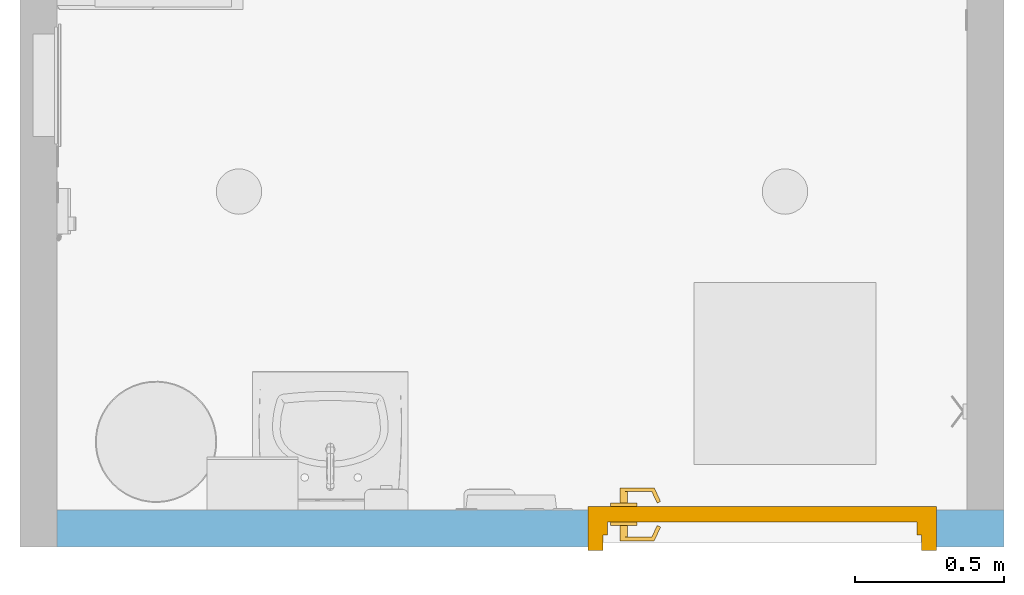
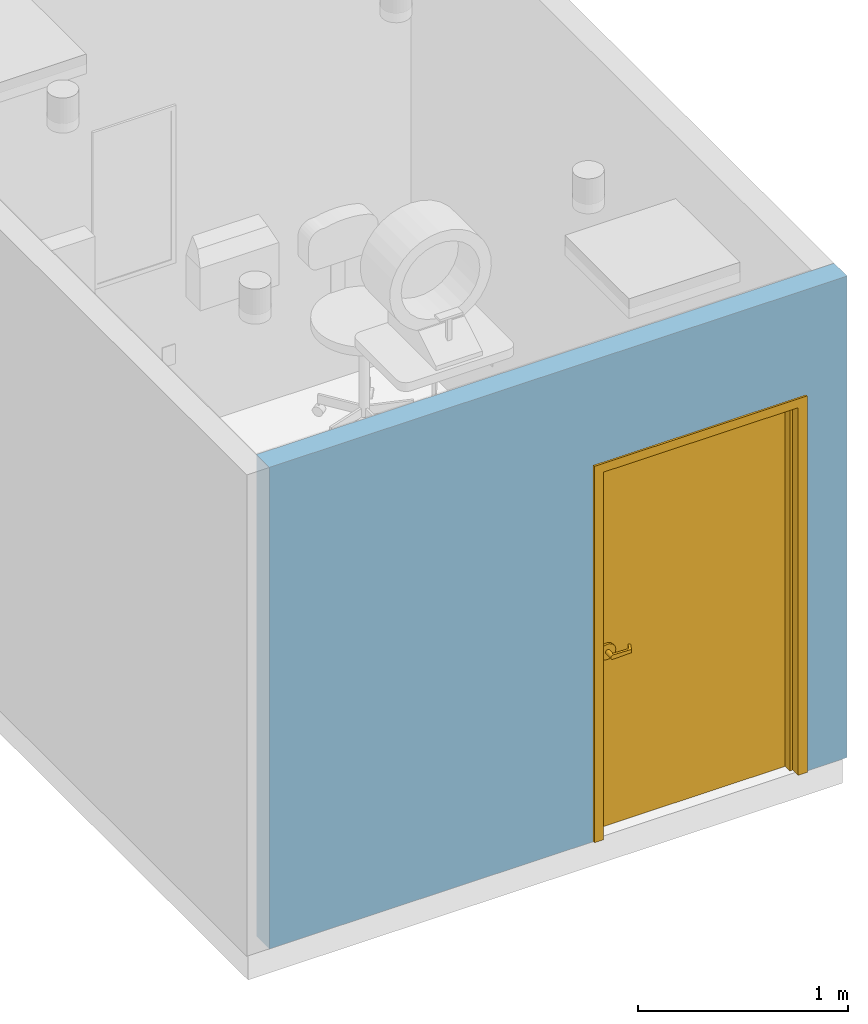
# One storey, part 2 of 11: 1 door, 1 opening, plus 1 element that does not belong to this part.
"""IFC2X3 building model written with IfcOpenShell, lengths in feet."""

from ifc_helpers import new_model, entity, si_unit, converted_unit, derived_unit, direction, frame, frame_2d, origin, place, context, subcontext, project, spatial, rectangle, extrude, faceted_brep, source, transform, mapped, material, material_list, layer, layer_set, layer_usage, type_object, type_shapes, element, fill, save


model = new_model("IFC2X3")

# Units and contexts
model_context = context("Model", 3, precision=0.0001, world=origin(), true_north=direction((6.12303176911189e-17, 1.0)))
body_context = subcontext(model_context, "Body", "Model", "MODEL_VIEW")
ifc_project = project(units=[converted_unit("LENGTHUNIT", "FOOT", entity("IfcRatioMeasure", 0.3048), si_unit("LENGTHUNIT", "METRE"), dimensions=[1, 0, 0, 0, 0, 0, 0]), converted_unit("AREAUNIT", "SQUARE FOOT", entity("IfcRatioMeasure", 0.09290304), si_unit("AREAUNIT", "SQUARE_METRE"), dimensions=[2, 0, 0, 0, 0, 0, 0]), converted_unit("VOLUMEUNIT", "CUBIC FOOT", entity("IfcRatioMeasure", 0.028316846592), si_unit("VOLUMEUNIT", "CUBIC_METRE"), dimensions=[3, 0, 0, 0, 0, 0, 0]), converted_unit("PLANEANGLEUNIT", "DEGREE", entity("IfcRatioMeasure", 0.0174532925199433), si_unit("PLANEANGLEUNIT", "RADIAN"), dimensions=[0, 0, 0, 0, 0, 0, 0]), si_unit("MASSUNIT", "GRAM", prefix="KILO"), derived_unit("MASSDENSITYUNIT", [(si_unit("MASSUNIT", "GRAM", prefix="KILO"), 1), (si_unit("LENGTHUNIT", "METRE"), -3)]), si_unit("TIMEUNIT", "SECOND"), si_unit("FREQUENCYUNIT", "HERTZ"), si_unit("THERMODYNAMICTEMPERATUREUNIT", "DEGREE_CELSIUS"), derived_unit("THERMALTRANSMITTANCEUNIT", [(si_unit("MASSUNIT", "GRAM", prefix="KILO"), 1), (si_unit("THERMODYNAMICTEMPERATUREUNIT", "KELVIN"), -1), (si_unit("TIMEUNIT", "SECOND"), -3)]), derived_unit("VOLUMETRICFLOWRATEUNIT", [(si_unit("LENGTHUNIT", "METRE"), 3), (si_unit("TIMEUNIT", "SECOND"), -1)]), si_unit("ELECTRICCURRENTUNIT", "AMPERE"), si_unit("ELECTRICVOLTAGEUNIT", "VOLT"), si_unit("POWERUNIT", "WATT"), si_unit("FORCEUNIT", "NEWTON"), si_unit("ILLUMINANCEUNIT", "LUX"), si_unit("LUMINOUSFLUXUNIT", "LUMEN"), si_unit("LUMINOUSINTENSITYUNIT", "CANDELA"), derived_unit("USERDEFINED", [(si_unit("MASSUNIT", "GRAM", prefix="KILO"), -1), (si_unit("LENGTHUNIT", "METRE"), -2), (si_unit("TIMEUNIT", "SECOND"), 3), (si_unit("LUMINOUSFLUXUNIT", "LUMEN"), 1)]), derived_unit("LINEARVELOCITYUNIT", [(si_unit("LENGTHUNIT", "METRE"), 1), (si_unit("TIMEUNIT", "SECOND"), -1)]), si_unit("PRESSUREUNIT", "PASCAL"), derived_unit("USERDEFINED", [(si_unit("LENGTHUNIT", "METRE"), -2), (si_unit("MASSUNIT", "GRAM", prefix="KILO"), 1), (si_unit("TIMEUNIT", "SECOND"), -2)])], contexts=[model_context])

# Site, building, storey
site_placement = place(None, origin())
site = spatial("IfcSite", under=ifc_project, at=site_placement, Name="Default", CompositionType="ELEMENT")
building_placement = place(site_placement, origin())
building = spatial("IfcBuilding", under=site, at=building_placement, Name="EYE CLINIC:  OPTHALMOLOGY AND OPTOMETRY SERVICES (Ch. 233)", CompositionType="ELEMENT")
storey_placement = place(building_placement, origin())
storey = spatial("IfcBuildingStorey", under=building, at=storey_placement, Name="DATUM", CompositionType="ELEMENT", Elevation=0.0)

# Wall, opening, door
ifc_material_1 = material(Name="Default Wall")
ifc_layer = layer(ifc_material_1, 0.40625)
ifc_layer_set = layer_set([ifc_layer], Name="Basic Wall:Interior - 4 7/8\"")
ifc_layer_usage = layer_usage(ifc_layer_set, "AXIS2", "NEGATIVE", 0.203125)
wall_type = type_object("IfcWallType", Name="Basic Wall:Interior - 4 7/8\"", PredefinedType="STANDARD", material=ifc_layer_set)
wall_placement = place(storey_placement, frame((200.046019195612, 16.307625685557, 0.0), z_axis=(0.0, 0.0, 1.0), x_axis=(-1.0, 0.0, 0.0)))
wall = element("IfcWallStandardCase", 1, at=wall_placement, inside=storey, type_object=wall_type, material=ifc_layer_usage, Name="Basic Wall:Interior - 4 7/8\"", ObjectType="Basic Wall:Interior - 4 7/8\"", context=body_context, shape_type="SweptSolid", body=[
    extrude(rectangle(XDim=10.40625, YDim=0.40625, at=frame_2d((5.203125, 1.12410081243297e-15), x_axis=(-1.0, 0.0))), origin(), (0.0, 0.0, 1.0), 9.16666666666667),
])
opening_placement = place(wall_placement, frame((4.57291666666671, 0.203124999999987, 0.0)))
opening = element("IfcOpeningElement", 2, at=opening_placement, cuts=wall, Name="Single - Flush:42\" x 84\":1", ObjectType="Opening", context=body_context, shape_type="SweptSolid", body=[
    extrude(rectangle(XDim=3.83333333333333, YDim=7.16666666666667, at=frame_2d((3.58333333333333, 1.91666666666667), x_axis=(0.0, 1.0))), frame((0.0, 0.0, 0.0), z_axis=(0.0, -1.0, 0.0), x_axis=(0.0, 0.0, 1.0)), (0.0, 0.0, 1.0), 0.40625),
])
ifc_material_2 = material(Name="Door - Hardware")
ifc_material_3 = material(Name="Door - Wood Panel")
ifc_material_4 = material(Name="Door - H.M. Frame")
ifc_material_list_1 = material_list([ifc_material_2, ifc_material_3, ifc_material_4])
ifc_material_list_2 = material_list([ifc_material_2, ifc_material_3, ifc_material_4])
door_style = type_object("IfcDoorStyle", Name="42\" x 84\"", ConstructionType="NOTDEFINED", OperationType="NOTDEFINED", ParameterTakesPrecedence=False, Sizeable=False, material=ifc_material_list_2)
shared_shape = source(origin(), body_context, "Body", "Brep", [
    faceted_brep([(0.761840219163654, 0.236368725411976, 3.3541666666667), (0.761840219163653, 0.236368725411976, 3.31250000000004), (0.709012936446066, 0.123080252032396, 3.30208333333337), (0.702622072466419, 0.109375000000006, 3.30208333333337), (0.702622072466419, 0.109375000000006, 3.36458333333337), (0.709012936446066, 0.123080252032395, 3.36458333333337), (0.799603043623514, 0.218759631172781, 3.3541666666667), (0.746775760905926, 0.1054711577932, 3.36458333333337), (0.729166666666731, 0.0677083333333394, 3.36458333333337), (0.72916666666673, 0.0677083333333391, 3.30208333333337), (0.746775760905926, 0.1054711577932, 3.30208333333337), (0.799603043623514, 0.218759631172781, 3.31250000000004), (0.72916666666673, 0.109375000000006, 3.30208333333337), (0.729166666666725, 0.109375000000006, 3.36458333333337), (0.397137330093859, 0.0677083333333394, 3.29168707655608), (0.397137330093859, 0.0677083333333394, 3.37497959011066), (0.38693671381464, 0.0677083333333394, 3.37403912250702), (0.377273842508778, 0.0677083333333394, 3.37063824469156), (0.368732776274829, 0.0677083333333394, 3.36498251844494), (0.361829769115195, 0.0677083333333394, 3.35741379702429), (0.356982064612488, 0.0677083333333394, 3.34838956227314), (0.354482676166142, 0.0677083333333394, 3.33845527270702), (0.354482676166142, 0.0677083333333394, 3.32821139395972), (0.356982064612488, 0.0677083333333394, 3.31827710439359), (0.361829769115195, 0.0677083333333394, 3.30925286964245), (0.368732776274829, 0.0677083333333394, 3.3016841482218), (0.377273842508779, 0.0677083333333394, 3.29602842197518), (0.38693671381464, 0.0677083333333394, 3.29262754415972), (0.397137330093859, 0.109375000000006, 3.29168707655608), (0.407663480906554, 0.109375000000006, 3.29338137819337), (0.417415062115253, 0.109375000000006, 3.29769150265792), (0.425753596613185, 0.109375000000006, 3.30433524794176), (0.432133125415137, 0.109375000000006, 3.31287762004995), (0.436135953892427, 0.109375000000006, 3.32275931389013), (0.437500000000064, 0.109375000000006, 3.33333333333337), (0.436135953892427, 0.109375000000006, 3.34390735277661), (0.432133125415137, 0.109375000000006, 3.35378904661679), (0.425753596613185, 0.109375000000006, 3.36233141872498), (0.417415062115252, 0.109375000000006, 3.36897516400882), (0.407663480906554, 0.109375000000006, 3.37328528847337), (0.397137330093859, 0.109375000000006, 3.37497959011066), (0.387651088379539, 0.109375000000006, 3.29247795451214), (0.378594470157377, 0.109375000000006, 3.2954000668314), (0.363605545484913, 0.109375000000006, 3.30692347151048), (0.370437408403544, 0.109375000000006, 3.30030065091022), (0.358454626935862, 0.109375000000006, 3.31492291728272), (0.355252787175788, 0.109375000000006, 3.32388185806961), (0.35416666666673, 0.109375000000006, 3.33333333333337), (0.355252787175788, 0.109375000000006, 3.34278480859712), (0.358454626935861, 0.109375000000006, 3.35174374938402), (0.370437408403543, 0.109375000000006, 3.36636601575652), (0.363605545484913, 0.109375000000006, 3.35974319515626), (0.378594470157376, 0.109375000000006, 3.37126659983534), (0.387651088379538, 0.109375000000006, 3.3741887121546), (0.35416666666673, 0.234375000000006, 3.33333333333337), (0.355586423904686, 0.234375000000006, 3.34411746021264), (0.359748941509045, 0.234375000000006, 3.3541666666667), (0.375000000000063, 0.234375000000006, 3.36941772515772), (0.366370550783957, 0.234375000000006, 3.36279611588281), (0.385049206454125, 0.234375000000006, 3.37358024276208), (0.395833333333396, 0.234375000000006, 3.37500000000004), (0.406617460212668, 0.234375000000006, 3.37358024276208), (0.41666666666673, 0.234375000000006, 3.36941772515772), (0.431917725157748, 0.234375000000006, 3.3541666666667), (0.425296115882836, 0.234375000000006, 3.36279611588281), (0.436080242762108, 0.234375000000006, 3.34411746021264), (0.437500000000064, 0.234375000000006, 3.33333333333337), (0.436080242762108, 0.234375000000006, 3.3225492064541), (0.431917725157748, 0.234375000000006, 3.31250000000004), (0.41666666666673, 0.234375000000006, 3.29724894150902), (0.425296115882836, 0.234375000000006, 3.30387055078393), (0.406617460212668, 0.234375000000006, 3.29308642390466), (0.395833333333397, 0.234375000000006, 3.2916666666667), (0.385049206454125, 0.234375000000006, 3.29308642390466), (0.375000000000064, 0.234375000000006, 3.29724894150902), (0.359748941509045, 0.234375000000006, 3.31250000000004), (0.366370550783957, 0.234375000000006, 3.30387055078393), (0.355586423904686, 0.234375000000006, 3.3225492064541), (0.468750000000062, 0.234375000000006, 3.4596287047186), (0.498953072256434, 0.234375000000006, 3.43645307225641), (0.433577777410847, 0.234375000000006, 3.47419751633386), (0.395833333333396, 0.234375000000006, 3.4791666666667), (0.358088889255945, 0.234375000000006, 3.47419751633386), (0.322916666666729, 0.234375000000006, 3.4596287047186), (0.292713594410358, 0.234375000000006, 3.43645307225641), (0.269537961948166, 0.234375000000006, 3.40625000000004), (0.254969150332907, 0.234375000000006, 3.37107777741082), (0.250000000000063, 0.234375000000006, 3.33333333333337), (0.254969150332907, 0.234375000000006, 3.29558888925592), (0.269537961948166, 0.234375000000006, 3.2604166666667), (0.292713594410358, 0.234375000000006, 3.23021359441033), (0.32291666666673, 0.234375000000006, 3.20703796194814), (0.358088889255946, 0.234375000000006, 3.19246915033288), (0.395833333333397, 0.234375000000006, 3.18750000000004), (0.433577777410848, 0.234375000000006, 3.19246915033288), (0.468750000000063, 0.234375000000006, 3.20703796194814), (0.498953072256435, 0.234375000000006, 3.23021359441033), (0.522128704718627, 0.234375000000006, 3.2604166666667), (0.536697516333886, 0.234375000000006, 3.29558888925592), (0.54166666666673, 0.234375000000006, 3.33333333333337), (0.536697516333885, 0.234375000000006, 3.37107777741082), (0.522128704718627, 0.234375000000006, 3.40625000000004), (0.433577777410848, 0.276041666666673, 3.19246915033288), (0.395833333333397, 0.276041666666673, 3.18750000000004), (0.358088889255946, 0.276041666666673, 3.19246915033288), (0.32291666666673, 0.276041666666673, 3.20703796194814), (0.292713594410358, 0.276041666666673, 3.23021359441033), (0.269537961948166, 0.276041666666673, 3.2604166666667), (0.254969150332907, 0.276041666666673, 3.29558888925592), (0.250000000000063, 0.276041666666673, 3.33333333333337), (0.254969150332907, 0.276041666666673, 3.37107777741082), (0.269537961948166, 0.276041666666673, 3.40625000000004), (0.292713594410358, 0.276041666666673, 3.43645307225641), (0.322916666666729, 0.276041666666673, 3.4596287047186), (0.358088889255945, 0.276041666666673, 3.47419751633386), (0.395833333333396, 0.276041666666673, 3.4791666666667), (0.433577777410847, 0.276041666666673, 3.47419751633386), (0.468750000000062, 0.276041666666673, 3.4596287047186), (0.498953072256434, 0.276041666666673, 3.43645307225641), (0.522128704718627, 0.276041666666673, 3.40625000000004), (0.536697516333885, 0.276041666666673, 3.37107777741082), (0.54166666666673, 0.276041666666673, 3.33333333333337), (0.536697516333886, 0.276041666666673, 3.29558888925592), (0.522128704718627, 0.276041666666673, 3.2604166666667), (0.498953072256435, 0.276041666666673, 3.23021359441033), (0.468750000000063, 0.276041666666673, 3.20703796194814)], [[[0, 1, 2, 3, 4, 5]], [[6, 7, 8, 9, 10, 11]], [[12, 3, 2, 10, 9]], [[11, 10, 2, 1]], [[11, 1, 0, 6]], [[7, 6, 0, 5]], [[13, 8, 7, 5, 4]], [[14, 9, 8, 15, 16, 17, 18, 19, 20, 21, 22, 23, 24, 25, 26, 27]], [[3, 12, 28, 29, 30, 31, 32, 33, 34, 35, 36, 37, 38, 39, 40, 13, 4]], [[28, 12, 9, 14]], [[28, 14, 41]], [[41, 27, 42]], [[43, 44, 25]], [[24, 45, 43]], [[26, 44, 42]], [[45, 23, 46]], [[27, 26, 42]], [[41, 14, 27]], [[45, 24, 23]], [[24, 43, 25]], [[44, 26, 25]], [[46, 23, 22]], [[22, 47, 46]], [[47, 21, 48]], [[48, 20, 49]], [[50, 51, 18]], [[17, 52, 50]], [[19, 51, 49]], [[52, 16, 53]], [[51, 19, 18]], [[49, 20, 19]], [[48, 21, 20]], [[53, 16, 15]], [[16, 52, 17]], [[50, 18, 17]], [[40, 53, 15]], [[22, 21, 47]], [[40, 15, 8, 13]], [[54, 48, 55]], [[55, 49, 56]], [[57, 58, 50]], [[51, 58, 56]], [[59, 57, 52]], [[48, 49, 55]], [[54, 47, 48]], [[57, 50, 52]], [[50, 58, 51]], [[56, 49, 51]], [[59, 52, 53]], [[53, 60, 59]], [[60, 40, 61]], [[61, 39, 62]], [[63, 64, 37]], [[36, 65, 63]], [[38, 64, 62]], [[65, 35, 66]], [[39, 38, 62]], [[61, 40, 39]], [[65, 36, 35]], [[36, 63, 37]], [[64, 38, 37]], [[66, 35, 34]], [[53, 40, 60]], [[66, 33, 67]], [[67, 32, 68]], [[69, 70, 30]], [[31, 70, 68]], [[71, 69, 29]], [[33, 32, 67]], [[66, 34, 33]], [[69, 30, 29]], [[30, 70, 31]], [[68, 32, 31]], [[71, 29, 28]], [[28, 72, 71]], [[72, 41, 73]], [[73, 42, 74]], [[75, 76, 43]], [[45, 77, 75]], [[44, 76, 74]], [[77, 46, 54]], [[42, 44, 74]], [[73, 41, 42]], [[77, 45, 46]], [[45, 75, 43]], [[76, 44, 43]], [[54, 46, 47]], [[28, 41, 72]], [[78, 61, 62]], [[78, 62, 79]], [[78, 80, 61]], [[60, 61, 80]], [[81, 60, 80]], [[60, 81, 59]], [[82, 59, 81]], [[82, 57, 59]], [[57, 82, 83]], [[57, 83, 58]], [[84, 58, 83]], [[58, 84, 56]], [[56, 84, 85]], [[56, 85, 55]], [[55, 85, 86]], [[54, 55, 86]], [[87, 54, 86]], [[77, 54, 87]], [[88, 77, 87]], [[75, 77, 88]], [[89, 75, 88]], [[75, 89, 90]], [[76, 75, 90]], [[90, 91, 76]], [[91, 74, 76]], [[74, 91, 92]], [[74, 92, 73]], [[92, 93, 73]], [[72, 73, 93]], [[93, 94, 72]], [[72, 94, 71]], [[95, 71, 94]], [[71, 95, 69]], [[69, 95, 96]], [[70, 69, 96]], [[97, 70, 96]], [[68, 70, 97]], [[98, 68, 97]], [[68, 98, 67]], [[67, 98, 99]], [[99, 66, 67]], [[99, 100, 66]], [[65, 66, 100]], [[101, 65, 100]], [[64, 101, 79]], [[101, 63, 65]], [[63, 101, 64]], [[64, 79, 62]], [[102, 103, 104, 105, 106, 107, 108, 109, 110, 111, 112, 113, 114, 115, 116, 117, 118, 119, 120, 121, 122, 123, 124, 125]], [[109, 87, 86, 110]], [[110, 86, 85, 111]], [[113, 112, 84, 83]], [[84, 112, 111, 85]], [[114, 113, 83, 82]], [[114, 82, 81, 115]], [[115, 81, 80, 116]], [[116, 80, 78, 117]], [[119, 118, 79, 101]], [[79, 118, 117, 78]], [[120, 119, 101, 100]], [[120, 100, 99, 121]], [[121, 99, 98, 122]], [[122, 98, 97, 123]], [[125, 124, 96, 95]], [[96, 124, 123, 97]], [[102, 125, 95, 94]], [[102, 94, 93, 103]], [[103, 93, 92, 104]], [[104, 92, 91, 105]], [[107, 106, 90, 89]], [[90, 106, 105, 91]], [[108, 107, 89, 88]], [[108, 88, 87, 109]]]),
    faceted_brep([(0.761840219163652, 0.482381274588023, 3.31249999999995), (0.761840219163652, 0.482381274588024, 3.35416666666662), (0.709012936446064, 0.595669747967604, 3.36458333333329), (0.702622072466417, 0.609374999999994, 3.36458333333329), (0.702622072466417, 0.609374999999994, 3.30208333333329), (0.709012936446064, 0.595669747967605, 3.30208333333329), (0.799603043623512, 0.499990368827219, 3.31249999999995), (0.746775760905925, 0.6132788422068, 3.30208333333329), (0.729166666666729, 0.651041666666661, 3.30208333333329), (0.729166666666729, 0.651041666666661, 3.36458333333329), (0.746775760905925, 0.6132788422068, 3.36458333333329), (0.799603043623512, 0.499990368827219, 3.35416666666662), (0.729166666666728, 0.609374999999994, 3.36458333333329), (0.729166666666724, 0.609374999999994, 3.30208333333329), (0.397137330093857, 0.651041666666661, 3.37497959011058), (0.397137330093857, 0.651041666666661, 3.291687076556), (0.386936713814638, 0.651041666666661, 3.29262754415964), (0.377273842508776, 0.651041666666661, 3.2960284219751), (0.368732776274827, 0.651041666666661, 3.30168414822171), (0.361829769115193, 0.651041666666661, 3.30925286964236), (0.356982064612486, 0.651041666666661, 3.31827710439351), (0.35448267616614, 0.651041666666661, 3.32821139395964), (0.35448267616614, 0.651041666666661, 3.33845527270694), (0.356982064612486, 0.651041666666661, 3.34838956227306), (0.361829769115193, 0.651041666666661, 3.35741379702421), (0.368732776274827, 0.651041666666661, 3.36498251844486), (0.377273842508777, 0.651041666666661, 3.37063824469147), (0.386936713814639, 0.651041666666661, 3.37403912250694), (0.397137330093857, 0.609374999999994, 3.37497959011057), (0.407663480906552, 0.609374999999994, 3.37328528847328), (0.417415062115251, 0.609374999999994, 3.36897516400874), (0.425753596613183, 0.609374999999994, 3.3623314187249), (0.432133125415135, 0.609374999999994, 3.35378904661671), (0.436135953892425, 0.609374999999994, 3.34390735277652), (0.437500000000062, 0.609374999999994, 3.33333333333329), (0.436135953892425, 0.609374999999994, 3.32275931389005), (0.432133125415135, 0.609374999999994, 3.31287762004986), (0.425753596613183, 0.609374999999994, 3.30433524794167), (0.417415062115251, 0.609374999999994, 3.29769150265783), (0.407663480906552, 0.609374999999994, 3.29338137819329), (0.397137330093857, 0.609374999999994, 3.291687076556), (0.387651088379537, 0.609374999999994, 3.37418871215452), (0.378594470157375, 0.609374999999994, 3.37126659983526), (0.363605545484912, 0.609374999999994, 3.35974319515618), (0.370437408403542, 0.609374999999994, 3.36636601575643), (0.35845462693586, 0.609374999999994, 3.35174374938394), (0.355252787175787, 0.609374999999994, 3.34278480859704), (0.354166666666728, 0.609374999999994, 3.33333333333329), (0.355252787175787, 0.609374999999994, 3.32388185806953), (0.35845462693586, 0.609374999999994, 3.31492291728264), (0.370437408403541, 0.609374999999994, 3.30030065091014), (0.363605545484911, 0.609374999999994, 3.30692347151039), (0.378594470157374, 0.609374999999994, 3.29540006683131), (0.387651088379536, 0.609374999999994, 3.29247795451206), (0.354166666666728, 0.484374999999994, 3.33333333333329), (0.355586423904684, 0.484374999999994, 3.32254920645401), (0.359748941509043, 0.484374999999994, 3.31249999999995), (0.375000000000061, 0.484374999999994, 3.29724894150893), (0.366370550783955, 0.484374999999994, 3.30387055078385), (0.385049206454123, 0.484374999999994, 3.29308642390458), (0.395833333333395, 0.484374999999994, 3.29166666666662), (0.406617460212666, 0.484374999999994, 3.29308642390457), (0.416666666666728, 0.484374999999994, 3.29724894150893), (0.431917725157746, 0.484374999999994, 3.31249999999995), (0.425296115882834, 0.484374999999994, 3.30387055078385), (0.436080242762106, 0.484374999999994, 3.32254920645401), (0.437500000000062, 0.484374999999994, 3.33333333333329), (0.436080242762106, 0.484374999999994, 3.34411746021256), (0.431917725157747, 0.484374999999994, 3.35416666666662), (0.416666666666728, 0.484374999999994, 3.36941772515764), (0.425296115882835, 0.484374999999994, 3.36279611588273), (0.406617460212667, 0.484374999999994, 3.373580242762), (0.395833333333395, 0.484374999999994, 3.37499999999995), (0.385049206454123, 0.484374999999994, 3.373580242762), (0.375000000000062, 0.484374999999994, 3.36941772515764), (0.359748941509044, 0.484374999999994, 3.35416666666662), (0.366370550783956, 0.484374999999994, 3.36279611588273), (0.355586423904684, 0.484374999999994, 3.34411746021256), (0.468750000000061, 0.484374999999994, 3.20703796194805), (0.498953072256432, 0.484374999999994, 3.23021359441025), (0.433577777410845, 0.484374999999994, 3.1924691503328), (0.395833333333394, 0.484374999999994, 3.18749999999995), (0.358088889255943, 0.484374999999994, 3.1924691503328), (0.322916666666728, 0.484374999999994, 3.20703796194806), (0.292713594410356, 0.484374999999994, 3.23021359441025), (0.269537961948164, 0.484374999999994, 3.26041666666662), (0.254969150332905, 0.484374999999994, 3.29558888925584), (0.250000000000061, 0.484374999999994, 3.33333333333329), (0.254969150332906, 0.484374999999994, 3.37107777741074), (0.269537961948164, 0.484374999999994, 3.40624999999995), (0.292713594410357, 0.484374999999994, 3.43645307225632), (0.322916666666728, 0.484374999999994, 3.45962870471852), (0.358088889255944, 0.484374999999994, 3.47419751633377), (0.395833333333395, 0.484374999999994, 3.47916666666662), (0.433577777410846, 0.484374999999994, 3.47419751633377), (0.468750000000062, 0.484374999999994, 3.45962870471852), (0.498953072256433, 0.484374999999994, 3.43645307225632), (0.522128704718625, 0.484374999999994, 3.40624999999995), (0.536697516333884, 0.484374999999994, 3.37107777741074), (0.541666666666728, 0.484374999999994, 3.33333333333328), (0.536697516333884, 0.484374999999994, 3.29558888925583), (0.522128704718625, 0.484374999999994, 3.26041666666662), (0.433577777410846, 0.442708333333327, 3.47419751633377), (0.395833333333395, 0.442708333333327, 3.47916666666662), (0.358088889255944, 0.442708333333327, 3.47419751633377), (0.322916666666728, 0.442708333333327, 3.45962870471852), (0.292713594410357, 0.442708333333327, 3.43645307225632), (0.269537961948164, 0.442708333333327, 3.40624999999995), (0.254969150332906, 0.442708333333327, 3.37107777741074), (0.250000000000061, 0.442708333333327, 3.33333333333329), (0.254969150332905, 0.442708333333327, 3.29558888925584), (0.269537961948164, 0.442708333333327, 3.26041666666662), (0.292713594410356, 0.442708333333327, 3.23021359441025), (0.322916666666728, 0.442708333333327, 3.20703796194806), (0.358088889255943, 0.442708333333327, 3.1924691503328), (0.395833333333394, 0.442708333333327, 3.18749999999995), (0.433577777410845, 0.442708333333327, 3.1924691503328), (0.468750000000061, 0.442708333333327, 3.20703796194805), (0.498953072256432, 0.442708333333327, 3.23021359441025), (0.522128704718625, 0.442708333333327, 3.26041666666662), (0.536697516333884, 0.442708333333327, 3.29558888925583), (0.541666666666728, 0.442708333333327, 3.33333333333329), (0.536697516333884, 0.442708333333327, 3.37107777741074), (0.522128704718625, 0.442708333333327, 3.40624999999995), (0.498953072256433, 0.442708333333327, 3.43645307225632), (0.468750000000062, 0.442708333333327, 3.45962870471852)], [[[0, 1, 2, 3, 4, 5]], [[6, 7, 8, 9, 10, 11]], [[12, 3, 2, 10, 9]], [[11, 10, 2, 1]], [[11, 1, 0, 6]], [[7, 6, 0, 5]], [[13, 8, 7, 5, 4]], [[14, 9, 8, 15, 16, 17, 18, 19, 20, 21, 22, 23, 24, 25, 26, 27]], [[3, 12, 28, 29, 30, 31, 32, 33, 34, 35, 36, 37, 38, 39, 40, 13, 4]], [[28, 12, 9, 14]], [[28, 14, 41]], [[41, 27, 42]], [[43, 44, 25]], [[24, 45, 43]], [[26, 44, 42]], [[45, 23, 46]], [[27, 26, 42]], [[41, 14, 27]], [[45, 24, 23]], [[24, 43, 25]], [[44, 26, 25]], [[46, 23, 22]], [[22, 47, 46]], [[47, 21, 48]], [[48, 20, 49]], [[50, 51, 18]], [[17, 52, 50]], [[19, 51, 49]], [[52, 16, 53]], [[51, 19, 18]], [[49, 20, 19]], [[48, 21, 20]], [[53, 16, 15]], [[16, 52, 17]], [[50, 18, 17]], [[40, 53, 15]], [[22, 21, 47]], [[40, 15, 8, 13]], [[54, 48, 55]], [[55, 49, 56]], [[57, 58, 50]], [[51, 58, 56]], [[59, 57, 52]], [[48, 49, 55]], [[54, 47, 48]], [[57, 50, 52]], [[50, 58, 51]], [[56, 49, 51]], [[59, 52, 53]], [[53, 60, 59]], [[60, 40, 61]], [[61, 39, 62]], [[63, 64, 37]], [[36, 65, 63]], [[38, 64, 62]], [[65, 35, 66]], [[39, 38, 62]], [[61, 40, 39]], [[65, 36, 35]], [[36, 63, 37]], [[64, 38, 37]], [[66, 35, 34]], [[53, 40, 60]], [[66, 33, 67]], [[67, 32, 68]], [[69, 70, 30]], [[31, 70, 68]], [[71, 69, 29]], [[33, 32, 67]], [[66, 34, 33]], [[69, 30, 29]], [[30, 70, 31]], [[68, 32, 31]], [[71, 29, 28]], [[28, 72, 71]], [[72, 41, 73]], [[73, 42, 74]], [[75, 76, 43]], [[45, 77, 75]], [[44, 76, 74]], [[77, 46, 54]], [[42, 44, 74]], [[73, 41, 42]], [[77, 45, 46]], [[45, 75, 43]], [[76, 44, 43]], [[54, 46, 47]], [[28, 41, 72]], [[78, 61, 62]], [[78, 62, 79]], [[78, 80, 61]], [[60, 61, 80]], [[81, 60, 80]], [[60, 81, 59]], [[82, 59, 81]], [[82, 57, 59]], [[57, 82, 83]], [[57, 83, 58]], [[84, 58, 83]], [[58, 84, 56]], [[56, 84, 85]], [[56, 85, 55]], [[55, 85, 86]], [[54, 55, 86]], [[87, 54, 86]], [[77, 54, 87]], [[88, 77, 87]], [[75, 77, 88]], [[89, 75, 88]], [[75, 89, 90]], [[76, 75, 90]], [[90, 91, 76]], [[91, 74, 76]], [[74, 91, 92]], [[74, 92, 73]], [[92, 93, 73]], [[72, 73, 93]], [[93, 94, 72]], [[72, 94, 71]], [[95, 71, 94]], [[71, 95, 69]], [[69, 95, 96]], [[70, 69, 96]], [[97, 70, 96]], [[68, 70, 97]], [[98, 68, 97]], [[68, 98, 67]], [[67, 98, 99]], [[99, 66, 67]], [[99, 100, 66]], [[65, 66, 100]], [[101, 65, 100]], [[64, 101, 79]], [[101, 63, 65]], [[63, 101, 64]], [[64, 79, 62]], [[102, 103, 104, 105, 106, 107, 108, 109, 110, 111, 112, 113, 114, 115, 116, 117, 118, 119, 120, 121, 122, 123, 124, 125]], [[109, 87, 86, 110]], [[110, 86, 85, 111]], [[113, 112, 84, 83]], [[84, 112, 111, 85]], [[114, 113, 83, 82]], [[114, 82, 81, 115]], [[115, 81, 80, 116]], [[116, 80, 78, 117]], [[119, 118, 79, 101]], [[79, 118, 117, 78]], [[120, 119, 101, 100]], [[120, 100, 99, 121]], [[121, 99, 98, 122]], [[122, 98, 97, 123]], [[125, 124, 96, 95]], [[96, 124, 123, 97]], [[102, 125, 95, 94]], [[102, 94, 93, 103]], [[103, 93, 92, 104]], [[104, 92, 91, 105]], [[107, 106, 90, 89]], [[90, 106, 105, 91]], [[108, 107, 89, 88]], [[108, 88, 87, 109]]]),
    faceted_brep([(3.66666666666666, 0.442708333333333, 7.0), (3.66666666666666, 0.442708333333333, 0.0), (0.166666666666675, 0.442708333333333, 0.0), (0.166666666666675, 0.442708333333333, 7.0), (3.66666666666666, 0.276041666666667, 7.0), (0.166666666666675, 0.276041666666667, 7.0), (0.166666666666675, 0.276041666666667, 0.0), (3.66666666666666, 0.276041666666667, 0.0)], [[[0, 1, 2, 3]], [[4, 5, 6, 7]], [[3, 5, 4, 0]], [[2, 6, 5, 3]], [[1, 7, 6, 2]], [[0, 4, 7, 1]]]),
    faceted_brep([(3.66666666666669, 0.442708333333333, 0.0), (3.83333333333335, 0.442708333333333, 0.0), (3.83333333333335, -0.0364583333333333, 0.0), (3.66666666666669, -0.0364583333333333, 0.0), (3.66666666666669, 0.130208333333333, 0.0), (3.61458333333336, 0.130208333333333, 0.0), (3.61458333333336, 0.276041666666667, 0.0), (3.66666666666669, 0.276041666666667, 0.0), (3.66666666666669, 0.276041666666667, 7.0), (3.66666666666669, 0.442708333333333, 7.0), (3.61458333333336, 0.276041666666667, 6.94791666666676), (0.218749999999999, 0.276041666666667, 6.94791666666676), (0.218749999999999, 0.276041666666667, 0.0), (0.166666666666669, 0.276041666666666, 0.0), (0.166666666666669, 0.276041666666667, 7.0), (3.61458333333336, 0.130208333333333, 6.94791666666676), (3.66666666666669, 0.130208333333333, 7.0), (0.166666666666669, 0.130208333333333, 7.0), (0.166666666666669, 0.130208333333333, 0.0), (0.218749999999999, 0.130208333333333, 0.0), (0.218749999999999, 0.130208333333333, 6.94791666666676), (3.66666666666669, -0.0364583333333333, 7.0), (3.83333333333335, -0.0364583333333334, 7.16666666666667), (0.0, -0.0364583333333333, 7.16666666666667), (0.0, -0.0364583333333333, 0.0), (0.166666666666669, -0.0364583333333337, 0.0), (0.166666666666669, -0.0364583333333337, 7.0), (3.83333333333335, 0.442708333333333, 7.16666666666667), (0.166666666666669, 0.442708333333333, 7.0), (0.166666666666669, 0.442708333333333, 0.0), (0.0, 0.442708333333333, 0.0), (0.0, 0.442708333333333, 7.16666666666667)], [[[0, 1, 2, 3, 4, 5, 6, 7]], [[7, 8, 9, 0]], [[6, 10, 11, 12, 13, 14, 8, 7]], [[5, 15, 10, 6]], [[4, 16, 17, 18, 19, 20, 15, 5]], [[3, 21, 16, 4]], [[2, 22, 23, 24, 25, 26, 21, 3]], [[1, 27, 22, 2]], [[0, 9, 28, 29, 30, 31, 27, 1]], [[29, 28, 14, 13]], [[29, 13, 12, 19, 18, 25, 24, 30]], [[12, 11, 20, 19]], [[17, 26, 25, 18]], [[30, 24, 23, 31]], [[14, 28, 9, 8]], [[15, 20, 11, 10]], [[21, 26, 17, 16]], [[23, 22, 27, 31]]]),
])
type_shapes(door_style, [shared_shape])
door_placement = place(opening_placement, frame((0.0, 0.0, 0.0), z_axis=(0.0, 0.0, 1.0), x_axis=(-1.0, 0.0, 0.0)))
door = element("IfcDoor", 3, at=door_placement, inside=storey, type_object=door_style, material=ifc_material_list_1, Name="Single - Flush:42\" x 84\"", ObjectType="42\" x 84\"", OverallHeight=7.16666666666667, OverallWidth=3.83333333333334, context=body_context, shape_type="MappedRepresentation", body=[
    mapped(shared_shape, transform((0.0, 0.0, 0.0), scale=1.0)),
])
fill(opening, door)

save(model, "model.ifc")
